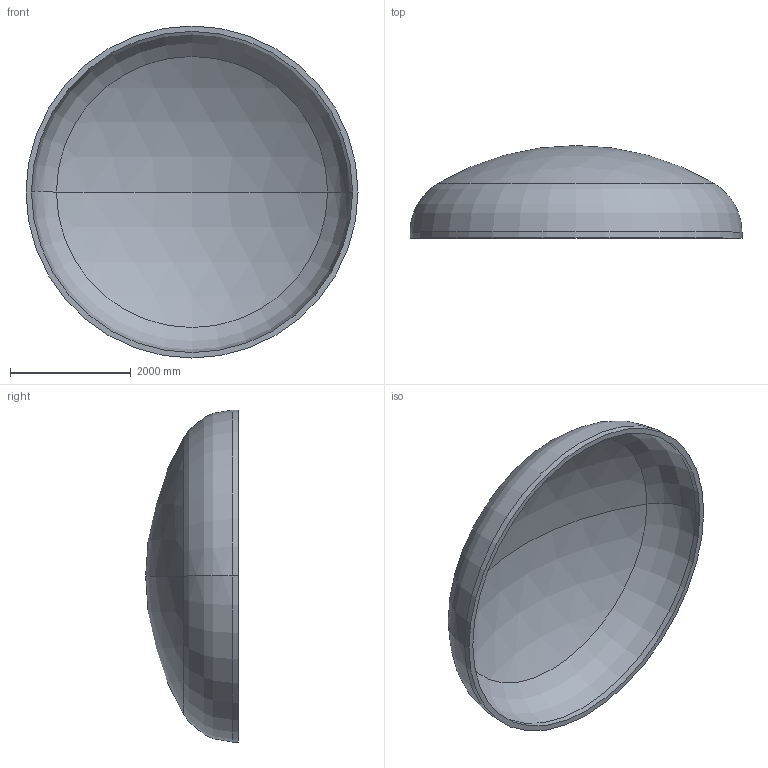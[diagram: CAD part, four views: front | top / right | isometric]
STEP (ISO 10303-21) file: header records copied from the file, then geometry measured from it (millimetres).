
FILE_DESCRIPTION (( 'STEP AP203' ), '1' );
FILE_NAME ('DIN 28013 Korbbogenform_-_Boden DIN 28013 - 5500 x 100 - I - s=90.step', '2016-07-04T10:35:00', ( '' ), ( '' ), 'SwSTEP 2.0', 'SolidWorks 2013', '' );
FILE_SCHEMA (( 'CONFIG_CONTROL_DESIGN' ));
Length unit declared in the file: millimetre
Products named in the file (1): DIN 28013 Korbbogenform_-_Boden DIN 28013 - 5500 x 100 - I - s=90
Bounding box: 5500 x 1533.24 x 5500 mm (x, y, z)
Volume: 3049789363.1 mm3; surface area: 69319677.9 mm2
Topology: 1 solids, 1 shells, 13 faces, 24 edges, 14 vertices
Faces by surface type: torus 4, cylinder 4, sphere 4, plane 1
Entity records: 407 total; most frequent: DIRECTION 72, CARTESIAN_POINT 52, ORIENTED_EDGE 48, AXIS2_PLACEMENT_3D 34, EDGE_CURVE 24, CIRCLE 20, VERTEX_POINT 14, EDGE_LOOP 14
